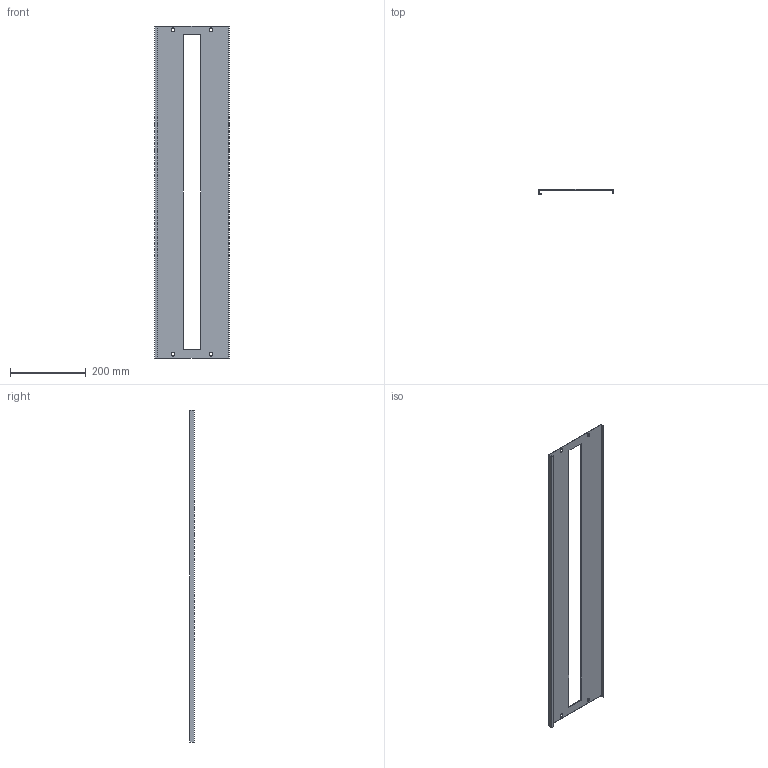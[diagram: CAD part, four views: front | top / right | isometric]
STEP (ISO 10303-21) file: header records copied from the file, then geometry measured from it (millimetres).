
FILE_DESCRIPTION (( 'STEP AP214' ), '1' );
FILE_NAME ('FO-00-PVM-020-100 Ïëàñòðîí äëÿ ìîäóëüíûõ óñòðîéñòâ 200õ1000.STEP', '2025-08-26T07:55:45', ( '' ), ( '' ), 'SwSTEP 2.0', 'SolidWorks 2023', '' );
FILE_SCHEMA (( 'AUTOMOTIVE_DESIGN' ));
Length unit declared in the file: millimetre
Products named in the file (1): FO-00-PVM-020-100 Пластрон для модульных устройств 200х1000
Bounding box: 198 x 12.5 x 879 mm (x, y, z)
Volume: 238203.1 mm3; surface area: 323713.6 mm2
Topology: 1 solids, 1 shells, 46 faces, 132 edges, 88 vertices
Faces by surface type: plane 34, cylinder 12
Entity records: 1543 total; most frequent: CARTESIAN_POINT 267, ORIENTED_EDGE 264, DIRECTION 250, EDGE_CURVE 132, VECTOR 108, LINE 108, VERTEX_POINT 88, AXIS2_PLACEMENT_3D 71
